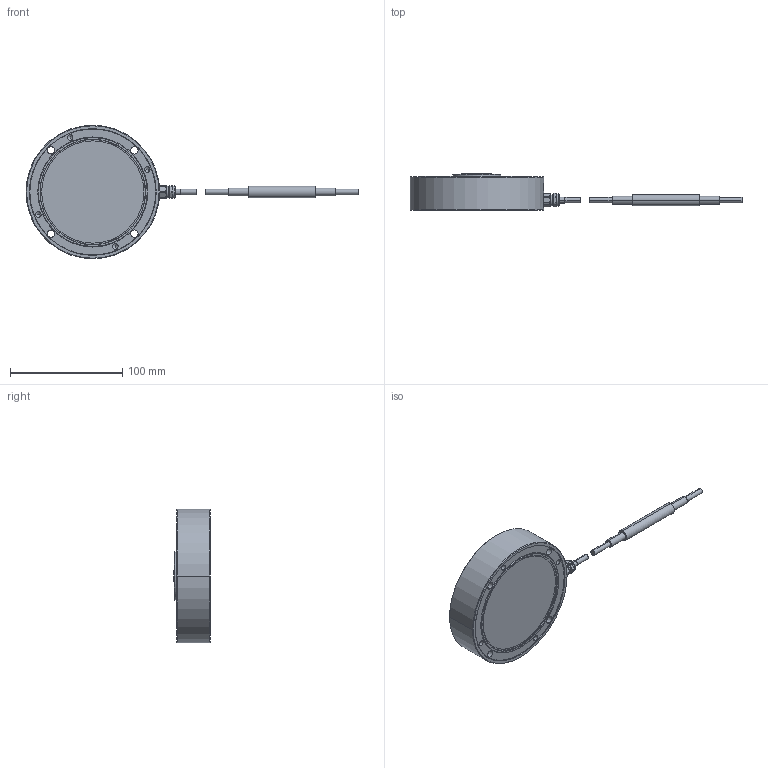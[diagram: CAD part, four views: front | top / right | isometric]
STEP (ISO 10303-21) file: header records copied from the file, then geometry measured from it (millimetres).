
FILE_DESCRIPTION(('STEP AP203'),'1');
FILE_NAME('C:/TPO v2/SharedFS/Outgoing/burster_8527-6005_3xtc5bp5opvdwk4t7bhkk6wfr.stp','2013-08-27T13:25:48',('TraceParts'),('TraceParts S.A.'),'XStep 1.0',' ',' ');
FILE_SCHEMA(('CONFIG_CONTROL_DESIGN'));
Length unit declared in the file: millimetre
Products named in the file (2): 1; 2
Bounding box: 295.75 x 32.61 x 119 mm (x, y, z)
Volume: 327385.1 mm3; surface area: 42047.8 mm2
Topology: 2 solids, 4 shells, 177 faces, 414 edges, 262 vertices
Faces by surface type: cylinder 88, plane 42, cone 30, torus 16, sphere 1
Entity records: 5244 total; most frequent: DIRECTION 982, CARTESIAN_POINT 965, ORIENTED_EDGE 812, AXIS2_PLACEMENT_3D 425, EDGE_CURVE 406, VERTEX_POINT 262, CIRCLE 246, EDGE_LOOP 214
